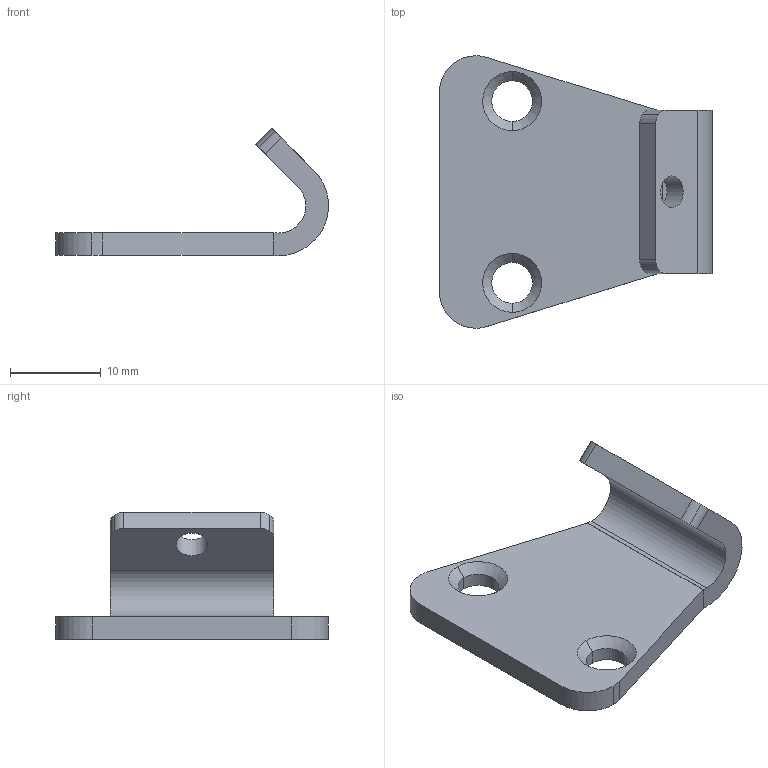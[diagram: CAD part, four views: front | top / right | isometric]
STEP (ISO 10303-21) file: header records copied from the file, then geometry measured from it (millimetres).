
FILE_DESCRIPTION((''),'2;1');
FILE_NAME('3608.__.stp','2015-09-08T10:19:46',(''),(''),'Mechanical Desktop 2006','Mechanical Desktop 2006',', , ');
FILE_SCHEMA(('CONFIG_CONTROL_DESIGN'));
Length unit declared in the file: millimetre
Products named in the file (2): 3608.__; TEIL1
Assembly tree (1 placements, depth 2):
  3608.__
    TEIL1
Bounding box: 30.06 x 30 x 14.03 mm (x, y, z)
Volume: 2140.9 mm3; surface area: 2128.8 mm2
Topology: 1 solids, 1 shells, 33 faces, 85 edges, 54 vertices
Faces by surface type: cylinder 18, plane 11, cone 4
Entity records: 1136 total; most frequent: DIRECTION 195, CARTESIAN_POINT 174, ORIENTED_EDGE 170, EDGE_CURVE 85, AXIS2_PLACEMENT_3D 75, VERTEX_POINT 54, VECTOR 45, LINE 45
